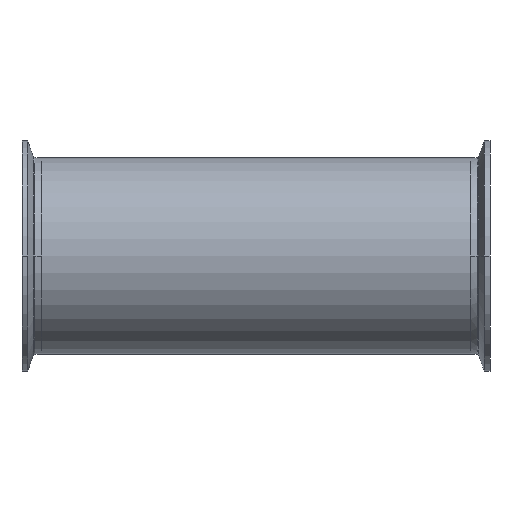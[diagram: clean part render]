
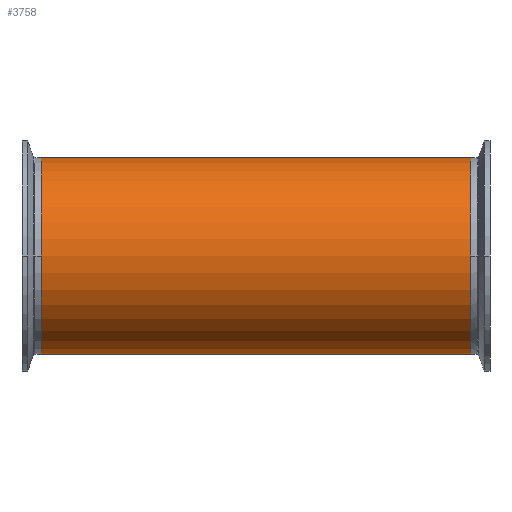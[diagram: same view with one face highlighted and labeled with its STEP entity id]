
A CAD part, front view. The second image highlights one B-rep face of the part: STEP entity #3758.
In plain terms, the highlighted cylindrical face has radius 50.8 mm (diameter 101.6 mm), a partial arc.
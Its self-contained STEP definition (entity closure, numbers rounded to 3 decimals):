
#11 = CARTESIAN_POINT ( 'NONE',  ( -110.7, 0., -50.8 ) ) ;
#20 = CIRCLE ( 'NONE', #421, 50.8 ) ;
#36 = EDGE_CURVE ( 'NONE', #1946, #760, #20, .T. ) ;
#43 = CARTESIAN_POINT ( 'NONE',  ( 254.384, 0., 0. ) ) ;
#93 = ORIENTED_EDGE ( 'NONE', *, *, #3043, .F. ) ;
#224 = ORIENTED_EDGE ( 'NONE', *, *, #3123, .T. ) ;
#351 = VECTOR ( 'NONE', #2851, 1000. ) ;
#388 = CARTESIAN_POINT ( 'NONE',  ( -110.7, 0., 0. ) ) ;
#410 = FACE_OUTER_BOUND ( 'NONE', #2056, .T. ) ;
#421 = AXIS2_PLACEMENT_3D ( 'NONE', #1031, #1540, #3205 ) ;
#502 = CIRCLE ( 'NONE', #914, 50.8 ) ;
#686 = DIRECTION ( 'NONE',  ( 0., 0., 1. ) ) ;
#699 = LINE ( 'NONE', #3011, #3918 ) ;
#704 = DIRECTION ( 'NONE',  ( 0., 0., 1. ) ) ;
#760 = VERTEX_POINT ( 'NONE', #1954 ) ;
#914 = AXIS2_PLACEMENT_3D ( 'NONE', #388, #2691, #704 ) ;
#977 = DIRECTION ( 'NONE',  ( -1., 0., 0. ) ) ;
#1031 = CARTESIAN_POINT ( 'NONE',  ( 110.7, 0., 0. ) ) ;
#1212 = LINE ( 'NONE', #2681, #351 ) ;
#1540 = DIRECTION ( 'NONE',  ( -1., 0., 0. ) ) ;
#1914 = ORIENTED_EDGE ( 'NONE', *, *, #36, .T. ) ;
#1946 = VERTEX_POINT ( 'NONE', #2100 ) ;
#1954 = CARTESIAN_POINT ( 'NONE',  ( 110.7, 0., 50.8 ) ) ;
#2056 = EDGE_LOOP ( 'NONE', ( #93, #1914, #2943, #224 ) ) ;
#2100 = CARTESIAN_POINT ( 'NONE',  ( 110.7, 0., -50.8 ) ) ;
#2308 = AXIS2_PLACEMENT_3D ( 'NONE', #43, #3017, #686 ) ;
#2577 = VERTEX_POINT ( 'NONE', #11 ) ;
#2681 = CARTESIAN_POINT ( 'NONE',  ( 254.384, 0., 50.8 ) ) ;
#2691 = DIRECTION ( 'NONE',  ( 1., 0., 0. ) ) ;
#2731 = EDGE_CURVE ( 'NONE', #760, #3340, #1212, .T. ) ;
#2851 = DIRECTION ( 'NONE',  ( -1., 0., 0. ) ) ;
#2943 = ORIENTED_EDGE ( 'NONE', *, *, #2731, .T. ) ;
#3011 = CARTESIAN_POINT ( 'NONE',  ( 254.384, 0., -50.8 ) ) ;
#3017 = DIRECTION ( 'NONE',  ( -1., 0., 0. ) ) ;
#3043 = EDGE_CURVE ( 'NONE', #1946, #2577, #699, .T. ) ;
#3123 = EDGE_CURVE ( 'NONE', #3340, #2577, #502, .T. ) ;
#3205 = DIRECTION ( 'NONE',  ( 0., 0., 1. ) ) ;
#3340 = VERTEX_POINT ( 'NONE', #3526 ) ;
#3526 = CARTESIAN_POINT ( 'NONE',  ( -110.7, 0., 50.8 ) ) ;
#3671 = CYLINDRICAL_SURFACE ( 'NONE', #2308, 50.8 ) ;
#3758 = ADVANCED_FACE ( 'NONE', ( #410 ), #3671, .T. ) ;
#3918 = VECTOR ( 'NONE', #977, 1000. ) ;
